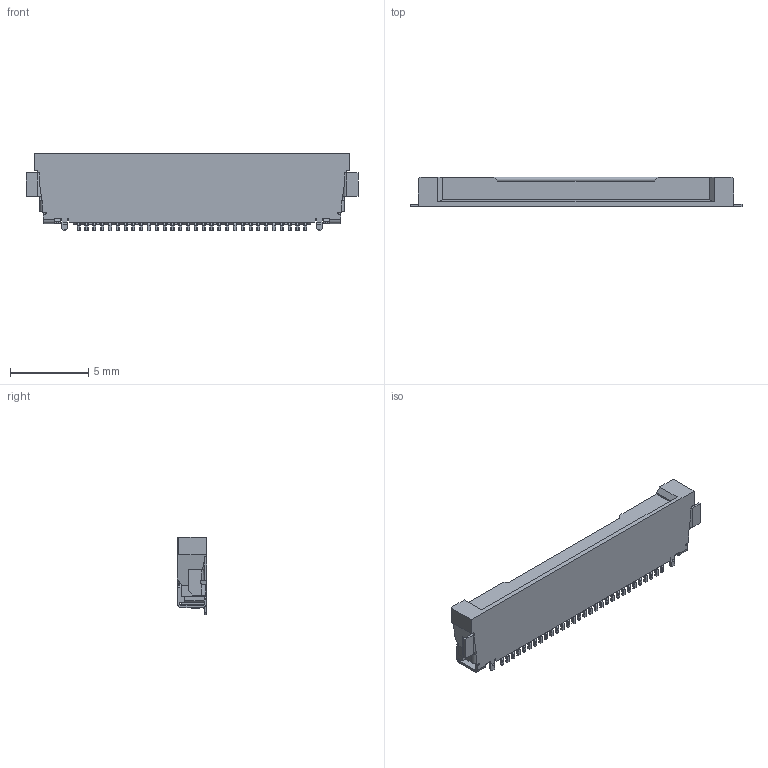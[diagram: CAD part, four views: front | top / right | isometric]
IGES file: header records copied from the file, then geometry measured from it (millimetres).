
Start section: SolidWorks IGES file using analytic representation for surfaces
Global section: file name: C:\3dworks\EVAFLEX5-VS_3DMODEL—p130307\20535-030ExxxC Assy IGES R4 ALL.IGS; native system: SolidWorks 2011; preprocessor: SolidWorks 2011; author: kaihatsu-3dcad-11; date: 130307.185207; units: millimetre
Bounding box: 21.25 x 1.9 x 4.95 mm (x, y, z)
Surface area: 309.7 mm2 (no closed solid volume)
Topology: 0 solids, 0 shells, 1414 faces, 8952 edges, 8952 vertices
Faces by surface type: bspline 1020, revolution 394
